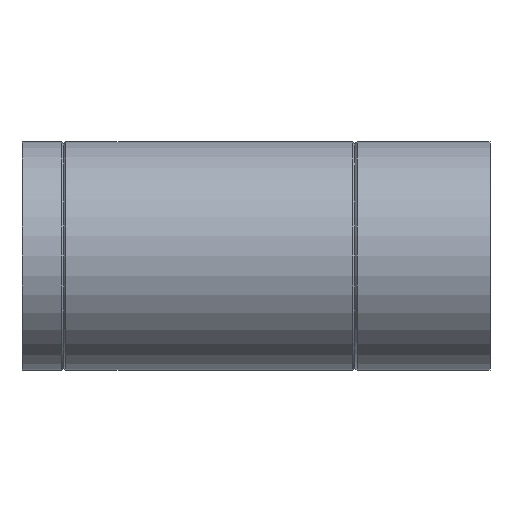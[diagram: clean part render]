
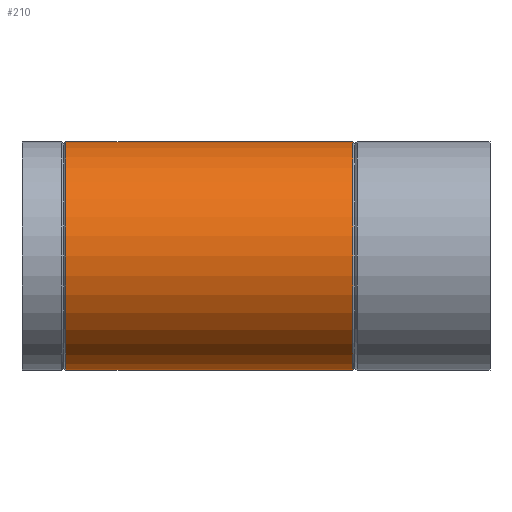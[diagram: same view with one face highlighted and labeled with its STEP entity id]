
A CAD part, left-side view. The second image highlights one B-rep face of the part: STEP entity #210.
In plain terms, the highlighted cylindrical face has radius 55 mm (diameter 110 mm), a full revolution.
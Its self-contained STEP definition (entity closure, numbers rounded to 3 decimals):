
#15=ELLIPSE($,#234,76.783,55.);
#16=ELLIPSE($,#235,78.82,55.);
#19=CYLINDRICAL_SURFACE($,#232,55.);
#28=FACE_BOUND($,#65,.T.);
#29=FACE_BOUND($,#66,.T.);
#50=FACE_OUTER_BOUND($,#64,.T.);
#64=EDGE_LOOP($,(#151));
#65=EDGE_LOOP($,(#152,#153));
#66=EDGE_LOOP($,(#154));
#96=CIRCLE($,#231,55.);
#97=CIRCLE($,#233,55.);
#111=VERTEX_POINT($,#341);
#112=VERTEX_POINT($,#344);
#113=VERTEX_POINT($,#346);
#114=VERTEX_POINT($,#347);
#130=EDGE_CURVE($,#111,#111,#96,.T.);
#131=EDGE_CURVE($,#112,#112,#97,.T.);
#132=EDGE_CURVE($,#113,#114,#15,.T.);
#133=EDGE_CURVE($,#114,#113,#16,.T.);
#151=ORIENTED_EDGE($,*,*,#131,.T.);
#152=ORIENTED_EDGE($,*,*,#132,.T.);
#153=ORIENTED_EDGE($,*,*,#133,.T.);
#154=ORIENTED_EDGE($,*,*,#130,.T.);
#210=ADVANCED_FACE($,(#50,#28,#29),#19,.T.);
#231=AXIS2_PLACEMENT_3D($,#342,#272,#273);
#232=AXIS2_PLACEMENT_3D($,#343,#274,#275);
#233=AXIS2_PLACEMENT_3D($,#345,#276,#277);
#234=AXIS2_PLACEMENT_3D($,#348,#278,#279);
#235=AXIS2_PLACEMENT_3D($,#349,#280,#281);
#272=DIRECTION('center_axis',(0.,-1.,0.));
#273=DIRECTION('ref_axis',(1.,0.,0.));
#274=DIRECTION('center_axis',(0.,1.,0.));
#275=DIRECTION('ref_axis',(1.,0.,0.));
#276=DIRECTION('center_axis',(0.,1.,0.));
#277=DIRECTION('ref_axis',(1.,0.,0.));
#278=DIRECTION('center_axis',(-0.698,-0.716,0.));
#279=DIRECTION('ref_axis',(0.716,-0.698,0.));
#280=DIRECTION('center_axis',(-0.716,0.698,0.));
#281=DIRECTION('ref_axis',(-0.698,-0.716,0.));
#341=CARTESIAN_POINT('',(55.,203.9,0.));
#342=CARTESIAN_POINT('Origin',(0.,203.9,0.));
#343=CARTESIAN_POINT('Origin',(0.,0.,0.));
#344=CARTESIAN_POINT('',(-55.,66.1,0.));
#345=CARTESIAN_POINT('Origin',(0.,66.1,0.));
#346=CARTESIAN_POINT('',(0.,135.,-55.));
#347=CARTESIAN_POINT('',(0.,135.,55.));
#348=CARTESIAN_POINT('Origin',(0.,135.,0.));
#349=CARTESIAN_POINT('Origin',(0.,135.,0.));
